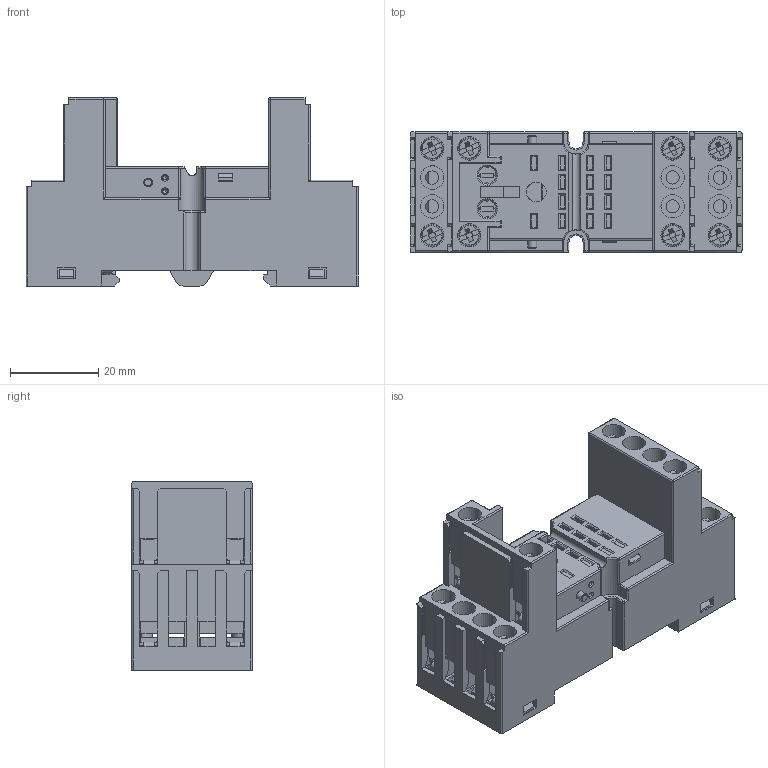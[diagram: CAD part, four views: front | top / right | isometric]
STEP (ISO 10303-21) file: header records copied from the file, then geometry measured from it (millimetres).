
FILE_DESCRIPTION(/* description */ (''),/* implementation_level */ '2;1');
FILE_NAME(/* name */ '18FF-2Z-C4_stp.stp',/* time_stamp */ '2018-12-29T11:45:29+08:00',/* author */ (''),/* organization */ (''),/* preprocessor_version */ 'ST-DEVELOPER v15',/* originating_system */ 'SIEMENS PLM Software NX 8.5',/* authorisation */ '');
FILE_SCHEMA (('CONFIG_CONTROL_DESIGN'));
Length unit declared in the file: millimetre
Products named in the file (8): Cover; Base 2; Lockspring3485; Model; Nut; Screw; Assy; 18FF-2Z-C4_stp
Assembly tree (21 placements, depth 3):
  18FF-2Z-C4_stp
    Assy
      Screw  x8
      Nut  x8
      Model
      Lockspring3485
      Base 2
      Cover
Bounding box: 75.2 x 27.2 x 42.6 mm (x, y, z)
Volume: 34235.6 mm3; surface area: 36947.4 mm2
Topology: 27 solids, 27 shells, 2236 faces, 5907 edges, 3756 vertices
Faces by surface type: plane 1661, cylinder 464, sphere 45, cone 28, torus 19, bspline 19
Full cylindrical faces by diameter (mm): 0.5 x8, 1 x4, 2 x2, 2.2 x8, 2.459 x8, 2.6 x8, 2.9 x8, 3 x14, 3.1 x16, 4 x2, 4.5 x1, 4.8 x8, 5.3 x14
Entity records: 43527 total; most frequent: CARTESIAN_POINT 8304, ORIENTED_EDGE 7116, DIRECTION 6771, EDGE_CURVE 3558, LINE 2993, VECTOR 2993, VERTEX_POINT 2346, AXIS2_PLACEMENT_3D 1889
